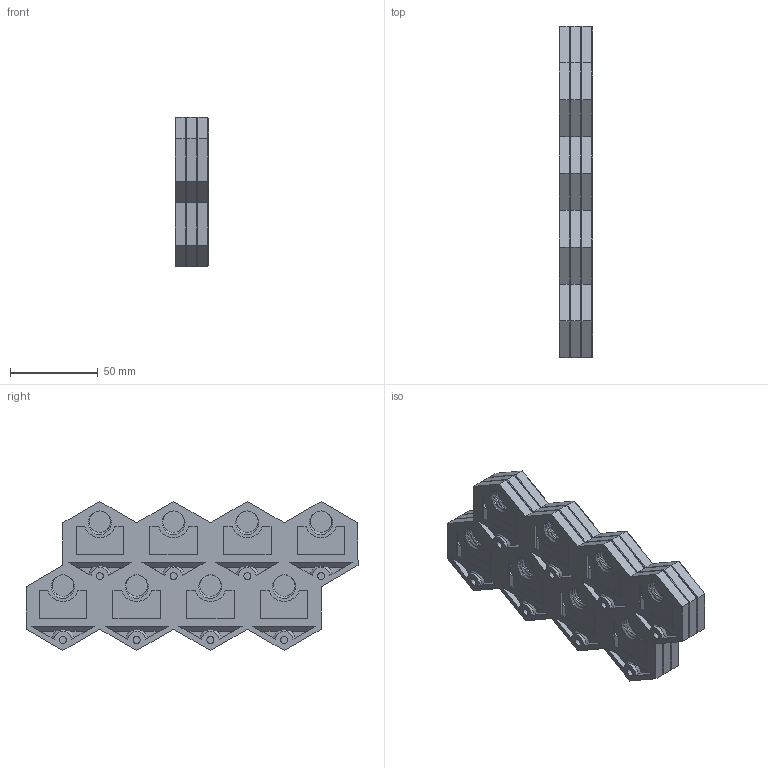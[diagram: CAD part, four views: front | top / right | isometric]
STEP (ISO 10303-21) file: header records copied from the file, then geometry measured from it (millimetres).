
FILE_DESCRIPTION(/* description */ ('','CAx-IF Rec.Pracs.---Representation and Presentation of Product Manufacturing Information (PMI)---4.0---2014-10-13'),/* implementation_level */ '2;1');
FILE_NAME(/* name */ 'GOEWS 2x4 Tile Stack with 0.4mm Spacer.step',/* time_stamp */ '2024-11-29T15:41:33-05:00',/* author */ (''),/* organization */ (''),/* preprocessor_version */ 'ST-DEVELOPER v20',/* originating_system */ 'Autodesk Translation Framework v13.20.0.188',/* authorisation */ '');
FILE_SCHEMA (('AP242_MANAGED_MODEL_BASED_3D_ENGINEERING_MIM_LF { 1 0 10303 442 1 1 4 }'));
Products named in the file (1): GOEWS Parametric Tile Stack with Spacer
Bounding box: 18.8 x 189 x 84.87 mm (x, y, z)
Volume: 119679.4 mm3; surface area: 135431.3 mm2
Topology: 5 solids, 5 shells, 1341 faces, 3651 edges, 2344 vertices
Faces by surface type: plane 933, cylinder 288, cone 72, bspline 48
Full cylindrical faces by diameter (mm): 4 x24, 8 x24, 12.322 x48, 14.55 x48
Entity records: 69809 total; most frequent: CARTESIAN_POINT 36857, ORIENTED_EDGE 7302, DIRECTION 5999, EDGE_CURVE 3651, LINE 2643, VECTOR 2643, VERTEX_POINT 2344, AXIS2_PLACEMENT_3D 1678
